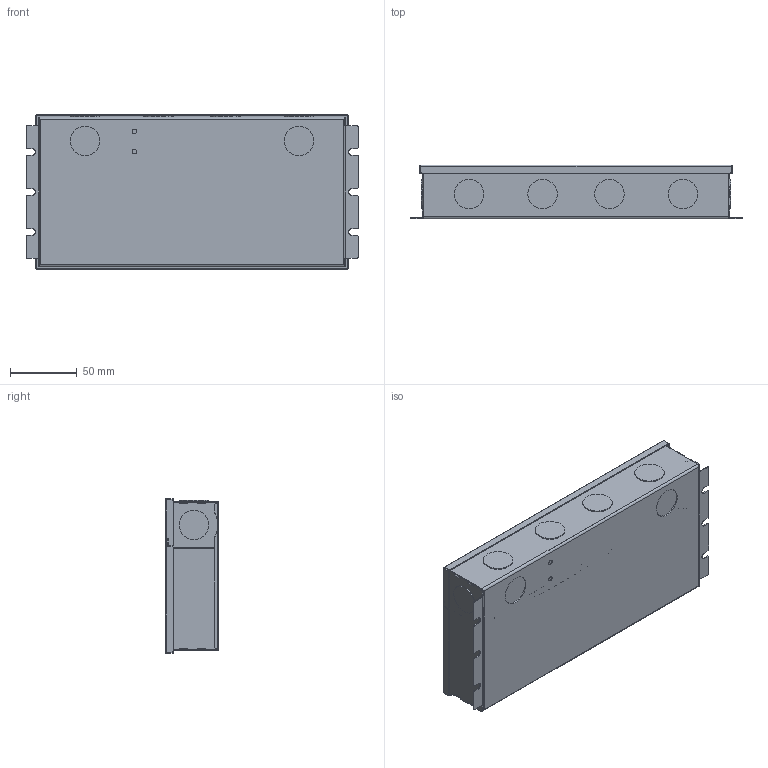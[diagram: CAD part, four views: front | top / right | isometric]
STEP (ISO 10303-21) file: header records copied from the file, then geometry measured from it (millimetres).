
FILE_DESCRIPTION((''),'2;1');
FILE_NAME('WET-LOCATION_CASE_JIAKUAN_ASM','2025-08-18T16:10:29',('Administrator'),(''),'CREO PARAMETRIC BY PTC INC, 2020053','CREO PARAMETRIC BY PTC INC, 2020053','');
FILE_SCHEMA(('CONFIG_CONTROL_DESIGN','SHAPE_APPEARANCE_LAYERS_GROUPS'));
Length unit declared in the file: millimetre
Products named in the file (7): WET-LOCATION_BOTTOM_JIAKUAN; WET-LOCATION_TOP1_JIAKUAN; WET-LOCATION_TOP2_JIAKUAN; WET-LOCATION_GEBAN2; WET-LOCATION_GEBAN1; WET-LOCATIAON_BIAOQIAN; WET-LOCATION_CASE_JIAKUAN_ASM
Assembly tree (6 placements, depth 2):
  WET-LOCATION_CASE_JIAKUAN_ASM
    WET-LOCATION_BOTTOM_JIAKUAN
    WET-LOCATION_TOP1_JIAKUAN
    WET-LOCATION_TOP2_JIAKUAN
    WET-LOCATION_GEBAN2
    WET-LOCATION_GEBAN1
    WET-LOCATIAON_BIAOQIAN
Bounding box: 248.4 x 40.2 x 115.6 mm (x, y, z)
Volume: 75009.2 mm3; surface area: 207749.4 mm2
Topology: 16 solids, 16 shells, 608 faces, 1428 edges, 868 vertices
Faces by surface type: plane 406, cylinder 178, torus 24
Entity records: 26176 total; most frequent: DIRECTION 3102, CARTESIAN_POINT 2917, ORIENTED_EDGE 2856, PRESENTATION_STYLE_ASSIGNMENT 2051, STYLED_ITEM 2051, CURVE_STYLE 1428, EDGE_CURVE 1428, AXIS2_PLACEMENT_3D 1053
